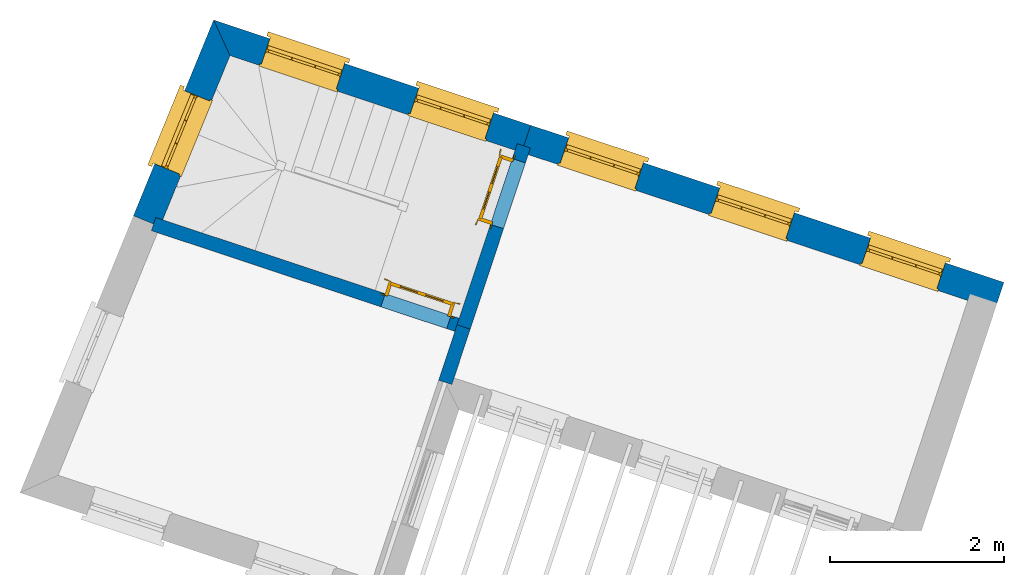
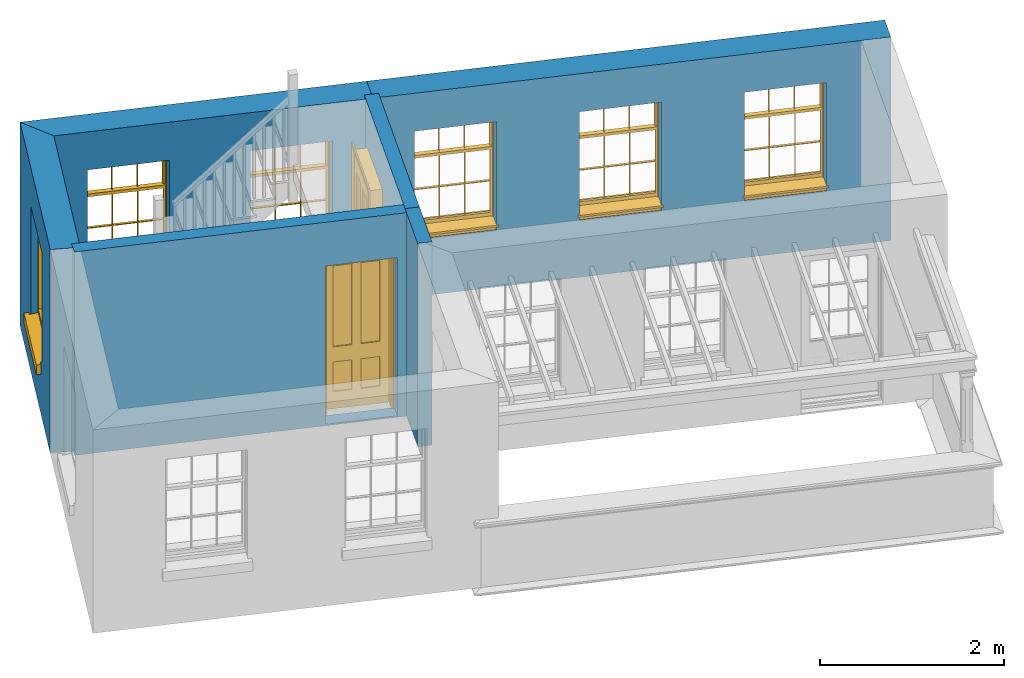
# One storey, part 4 of 6: 6 walls, 6 windows, 2 doors, 8 openings.
"""IFC4 building model written with IfcOpenShell, lengths in metres."""

from ifc_helpers import new_model, si_unit, frame, origin, origin_with_axes, place, context, subcontext, project, spatial, polyline, outline, extrude, faceted_brep, source, transform, mapped, material, layer, layer_set, layer_usage, type_object, type_shapes, element, fill, save


model = new_model("IFC4")

# Units and contexts
model_context = context("Model", 3, world=origin_with_axes())
body_context = subcontext(model_context, "Body", "Model", "MODEL_VIEW")
ifc_project = project(units=[si_unit("PLANEANGLEUNIT", "RADIAN"), si_unit("MASSUNIT", "GRAM", prefix="KILO"), si_unit("FORCEUNIT", "NEWTON", prefix="KILO"), si_unit("LENGTHUNIT", "METRE"), si_unit("AREAUNIT", "SQUARE_METRE"), si_unit("VOLUMEUNIT", "CUBIC_METRE")], contexts=[model_context, model_context])

# Sites, building, storey
site_1_placement = place(None, origin_with_axes())
site_1 = spatial("IfcSite", under=ifc_project, at=site_1_placement, Name="Tamar")
site_2_placement = place(site_1_placement, origin_with_axes())
site_2 = spatial("IfcSite", under=site_1, at=site_2_placement, Name="Site plot-16", CompositionType="ELEMENT")
building_placement = place(None, origin_with_axes())
building = spatial("IfcBuilding", under=site_2, at=building_placement, Name="Building plot-16", CompositionType="ELEMENT")
storey_placement = place(None, frame((0.0, 0.0, 29.45), z_axis=(0.0, 0.0, 1.0), x_axis=(1.0, 0.0, 0.0)))
storey = spatial("IfcBuildingStorey", under=building, at=storey_placement, Name="plot-16 1", CompositionType="ELEMENT", Elevation=29.45)

# Wall, openings, windows
ifc_material_1 = material(Name="Masonry")
ifc_layer_1 = layer(ifc_material_1, 0.33, ventilated=False)
ifc_layer_set_1 = layer_set([ifc_layer_1], Name="exterior_0.08_0.25")
ifc_layer_usage_1 = layer_usage(ifc_layer_set_1, "AXIS2", "POSITIVE", -0.25)
wall_type_1 = type_object("IfcWallType", Name="exterior_0.08_0.25", PredefinedType="SOLIDWALL", material=ifc_layer_set_1)
wall_1_placement = place(storey_placement, frame((263.230074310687, 296.823615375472, 0.0), z_axis=(0.0, 0.0, 1.0), x_axis=(-0.949078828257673, 0.315038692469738, 0.0)))
wall_1 = element("IfcWall", 1, at=wall_1_placement, inside=storey, type_object=wall_type_1, material=ifc_layer_usage_1, Name="exterior", context=body_context, shape_type="SweptSolid", body=[
    extrude(outline(polyline([(-0.249999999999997, 0.0799999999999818), (-0.249999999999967, -0.249999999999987), (5.49899441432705, -0.249999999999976), (5.49899441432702, 0.0799999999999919), (-0.249999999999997, 0.0799999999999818)])), origin_with_axes(), (0.0, 0.0, 1.0), 2.7),
])
opening_1_placement = place(wall_1_placement, frame((0.461499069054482, 0.0, 0.75)))
opening_1 = element("IfcOpeningElement", 2, at=opening_1_placement, cuts=wall_1, Name="My Opening", ObjectType="Opening", context=body_context, shape_type="SweptSolid", body=[
    extrude(outline(polyline([(0.0, -0.270000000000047), (0.909999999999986, -0.270000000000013), (0.910000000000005, 1.10000000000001), (1.9151347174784e-14, 1.09999999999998), (0.0, -0.270000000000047)])), origin_with_axes(), (0.0, 0.0, 1.0), 1.445),
])
opening_2_placement = place(wall_1_placement, frame((2.2944972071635, 0.0, 0.75)))
opening_2 = element("IfcOpeningElement", 3, at=opening_2_placement, cuts=wall_1, Name="My Opening", ObjectType="Opening", context=body_context, shape_type="SweptSolid", body=[
    extrude(outline(polyline([(0.0, -0.270000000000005), (0.910000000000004, -0.270000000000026), (0.910000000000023, 1.1), (1.95399252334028e-14, 1.10000000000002), (0.0, -0.270000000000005)])), origin_with_axes(), (0.0, 0.0, 1.0), 1.445),
])
opening_3_placement = place(wall_1_placement, frame((4.12749534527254, 0.0, 0.75)))
opening_3 = element("IfcOpeningElement", 4, at=opening_3_placement, cuts=wall_1, Name="My Opening", ObjectType="Opening", context=body_context, shape_type="SweptSolid", body=[
    extrude(outline(polyline([(0.0, -0.270000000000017), (0.909999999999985, -0.269999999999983), (0.910000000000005, 1.10000000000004), (1.86517468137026e-14, 1.10000000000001), (0.0, -0.270000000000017)])), origin_with_axes(), (0.0, 0.0, 1.0), 1.445),
])
window_type = type_object("IfcWindowType", Name="sash_shorter", PartitioningType="DOUBLE_PANEL_HORIZONTAL", PredefinedType="NOTDEFINED")
shared_shape_1 = source(origin(), body_context, "Body", "Brep", [
    faceted_brep([(0.876875, 0.145, 0.999097), (0.876875, 0.145, 1.411875), (0.9, 0.145, 1.435), (0.033125, 0.145, 1.411875), (0.033125, 0.145, 0.999097), (0.01, 0.145, 1.435), (0.033125, 0.115, 1.411875), (0.01, 0.115, 1.435), (0.033125, 0.115, 0.999097), (0.876875, 0.115, 1.411875), (0.876875, 0.115, 0.999097), (0.9, 0.115, 1.435), (0.033125, 0.145, 0.960972), (0.01, 0.145, 0.960972), (0.033125, 0.145, 0.548195), (0.876875, 0.145, 0.960972), (0.876875, 0.145, 0.548195), (0.9, 0.145, 0.960972), (0.876875, 0.145, 0.538195), (0.876875, 0.145, 0.125417), (0.9, 0.145, 0.077167), (0.033125, 0.145, 0.125417), (0.033125, 0.145, 0.538195), (0.01, 0.145, 0.077167), (0.9, 0.115, 0.960972), (0.01, 0.115, 0.960972), (-0.0425, 0.0, 0.01), (-0.0425, -0.05, 0.001667), (0.0, 0.0, 0.01), (0.9525, 0.0, 0.01), (0.91, 0.0, 0.01), (0.9525, -0.05, 0.001667), (-0.02, 0.33, 0.077167), (0.0, 0.33, 0.077167), (-0.02, 0.36, 0.077167), (0.0, 0.19, 0.077167), (0.01, 0.19, 0.077167), (0.91, 0.19, 0.077167), (0.91, 0.33, 0.077167), (0.9, 0.19, 0.077167), (0.93, 0.33, 0.077167), (0.93, 0.36, 0.077167), (0.01, 0.145, 0.999097), (0.01, 0.175, 0.999097), (0.9, 0.145, 0.999097), (0.9, 0.175, 0.999097), (0.876875, 0.175, 0.125417), (0.876875, 0.175, 0.538195), (0.9, 0.175, 0.077167), (0.876875, 0.175, 0.548195), (0.876875, 0.175, 0.960972), (0.033125, 0.175, 0.125417), (0.01, 0.175, 0.077167), (0.033125, 0.175, 0.538195), (0.033125, 0.175, 0.960972), (0.033125, 0.175, 0.548195), (-0.02, 0.33, 0.052167), (-0.02, 0.36, 0.052167), (0.93, 0.36, 0.052167), (0.93, 0.33, 0.052167), (0.91, 0.33, 0.052167), (0.0, 0.33, 0.052167), (0.91, 0.1, 0.026667), (0.0, 0.1, 0.026667), (-0.0425, -0.05, -0.123333), (0.9525, -0.05, -0.123333), (-0.0425, 0.0, -0.123333), (0.9525, 0.0, -0.123333), (0.01, 0.19, 1.435), (0.9, 0.19, 1.435), (0.0, 0.19, 1.445), (0.91, 0.19, 1.445), (0.01, 0.1, 0.077167), (0.9, 0.1, 0.077167), (0.592292, 0.145, 0.125417), (0.592292, 0.175, 0.125417), (0.317708, 0.175, 0.125417), (0.317708, 0.145, 0.125417), (0.592292, 0.145, 0.548195), (0.317708, 0.145, 0.548195), (0.317708, 0.145, 0.538195), (0.592292, 0.145, 0.538195), (0.592292, 0.175, 0.548195), (0.317708, 0.175, 0.548195), (0.602292, 0.175, 0.548195), (0.602292, 0.145, 0.548195), (0.317708, 0.175, 0.538195), (0.307708, 0.175, 0.125417), (0.307708, 0.175, 0.538195), (0.602292, 0.175, 0.538195), (0.602292, 0.175, 0.125417), (0.592292, 0.175, 0.538195), (0.307708, 0.175, 0.548195), (0.317708, 0.175, 0.960972), (0.307708, 0.175, 0.960972), (0.602292, 0.175, 0.960972), (0.592292, 0.175, 0.960972), (0.307708, 0.145, 0.538195), (0.307708, 0.145, 0.125417), (0.307708, 0.145, 0.548195), (0.307708, 0.145, 0.960972), (0.592292, 0.145, 0.960972), (0.317708, 0.145, 0.960972), (0.602292, 0.145, 0.960972), (0.602292, 0.145, 0.538195), (0.602292, 0.145, 0.125417), (0.317708, 0.115, 1.411875), (0.307708, 0.115, 1.411875), (0.307708, 0.115, 0.999097), (0.317708, 0.115, 0.999097), (0.602292, 0.115, 1.411875), (0.592292, 0.115, 1.411875), (0.592292, 0.115, 0.999097), (0.602292, 0.115, 0.999097), (0.317708, 0.145, 0.999097), (0.307708, 0.145, 0.999097), (0.307708, 0.145, 1.411875), (0.317708, 0.145, 1.411875), (0.602292, 0.145, 0.999097), (0.592292, 0.145, 0.999097), (0.592292, 0.145, 1.411875), (0.602292, 0.145, 1.411875), (0.91, 0.1, 1.445), (0.9, 0.1, 1.435), (0.01, 0.1, 1.435), (0.0, 0.1, 1.445), (0.91, 0.0, 0.0), (0.0, 0.0, 0.0), (0.91, 0.33, 0.0), (0.0, 0.33, 0.0)], [[[0, 1, 2]], [[3, 4, 5]], [[6, 7, 8]], [[9, 10, 11]], [[12, 13, 14]], [[15, 16, 17]], [[18, 19, 20]], [[21, 22, 23]], [[24, 15, 17]], [[13, 12, 25]], [[26, 27, 28]], [[29, 30, 31]], [[32, 33, 34]], [[35, 36, 33]], [[37, 38, 39]], [[40, 41, 38]], [[42, 4, 43]], [[44, 45, 0]], [[46, 47, 48]], [[49, 50, 45]], [[51, 52, 53]], [[54, 55, 43]], [[38, 33, 36, 39]], [[41, 34, 33, 38]], [[56, 32, 34, 57]], [[57, 34, 41, 58]], [[58, 41, 40, 59]], [[57, 58, 60, 61]], [[52, 48, 39, 36]], [[62, 63, 28, 30]], [[27, 31, 30, 28]], [[27, 64, 65, 31]], [[66, 67, 65, 64]], [[2, 5, 68, 69]], [[68, 70, 71, 69]], [[20, 23, 72, 73]], [[73, 72, 63, 62]], [[74, 75, 76, 77]], [[78, 79, 80, 81]], [[78, 82, 83, 79]], [[16, 49, 84, 85]], [[86, 76, 87, 88]], [[89, 90, 75, 91]], [[92, 88, 53, 55]], [[82, 91, 86, 83]], [[93, 83, 92, 94]], [[95, 84, 82, 96]], [[89, 84, 49, 47]], [[97, 88, 87, 98]], [[22, 53, 88, 97]], [[81, 91, 75, 74]], [[80, 86, 91, 81]], [[77, 76, 86, 80]], [[99, 92, 55, 14]], [[100, 94, 92, 99]], [[101, 96, 82, 78]], [[79, 83, 93, 102]], [[85, 84, 95, 103]], [[104, 89, 47, 18]], [[105, 90, 89, 104]], [[104, 18, 16, 85]], [[80, 97, 98, 77]], [[104, 81, 74, 105]], [[103, 101, 78, 85]], [[99, 14, 22, 97]], [[102, 100, 99, 79]], [[106, 107, 108, 109]], [[110, 111, 112, 113]], [[114, 115, 116, 117]], [[118, 119, 120, 121]], [[107, 116, 115, 108]], [[111, 120, 119, 112]], [[109, 114, 117, 106]], [[113, 118, 121, 110]], [[85, 78, 81, 104]], [[84, 89, 91, 82]], [[83, 86, 88, 92]], [[79, 99, 97, 80]], [[109, 112, 119, 114]], [[102, 93, 96, 101]], [[106, 117, 120, 111]], [[98, 87, 51, 21]], [[6, 3, 116, 107]], [[110, 121, 1, 9]], [[19, 46, 90, 105]], [[26, 66, 64, 27]], [[29, 31, 65, 67]], [[25, 24, 112, 109]], [[11, 7, 106, 111]], [[75, 48, 52, 76]], [[43, 45, 96, 93]], [[45, 43, 114, 119]], [[5, 2, 120, 117]], [[24, 25, 102, 101]], [[42, 5, 4]], [[2, 44, 0]], [[49, 45, 48, 47]], [[52, 43, 55, 53]], [[14, 13, 23, 22]], [[20, 17, 16, 18]], [[24, 11, 10]], [[25, 8, 7]], [[8, 4, 3, 6]], [[9, 1, 0, 10]], [[15, 50, 49, 16]], [[18, 47, 46, 19]], [[21, 51, 53, 22]], [[14, 55, 54, 12]], [[44, 2, 69, 45]], [[68, 5, 42, 43]], [[36, 35, 70, 68]], [[39, 69, 71, 37]], [[62, 122, 123, 73]], [[63, 72, 124, 125]], [[8, 108, 115, 4]], [[113, 10, 0, 118]], [[94, 100, 12, 54]], [[17, 20, 73, 24]], [[72, 23, 13, 25]], [[52, 36, 68, 43]], [[69, 39, 48, 45]], [[11, 24, 73, 123]], [[7, 124, 72, 25]], [[23, 77, 98]], [[98, 21, 23]], [[105, 74, 20]], [[20, 19, 105]], [[20, 74, 77, 23]], [[113, 112, 24]], [[24, 10, 113]], [[25, 109, 108]], [[108, 8, 25]], [[110, 9, 11]], [[11, 111, 110]], [[7, 6, 107]], [[107, 106, 7]], [[5, 117, 116]], [[116, 3, 5]], [[121, 120, 2]], [[2, 1, 121]], [[11, 123, 124, 7]], [[122, 125, 124, 123]], [[43, 93, 94]], [[94, 54, 43]], [[96, 45, 95]], [[50, 95, 45]], [[15, 103, 95, 50]], [[48, 75, 90]], [[90, 46, 48]], [[87, 76, 52]], [[52, 51, 87]], [[103, 15, 24]], [[24, 101, 103]], [[100, 102, 25]], [[25, 12, 100]], [[115, 114, 43]], [[43, 4, 115]], [[118, 0, 45]], [[45, 119, 118]], [[71, 70, 125, 122]], [[70, 35, 63, 125]], [[122, 62, 37, 71]], [[126, 67, 66, 127]], [[60, 58, 59]], [[38, 60, 59, 40]], [[61, 56, 57]], [[32, 56, 61, 33]], [[61, 60, 128, 129]], [[62, 60, 38, 37]], [[126, 128, 60, 62]], [[33, 61, 63, 35]], [[61, 129, 127, 63]], [[128, 126, 127, 129]], [[28, 127, 66, 26]], [[63, 127, 28]], [[29, 67, 126, 30]], [[30, 126, 62]]]),
])
type_shapes(window_type, [shared_shape_1])
window_1_placement = place(storey_placement, frame((262.877135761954, 297.225256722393, 0.75), z_axis=(0.0, 0.0, 1.0), x_axis=(-0.86366173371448, 0.286685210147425, 0.0)))
window_1 = element("IfcWindow", 5, at=window_1_placement, inside=storey, type_object=window_type, Name="bedroom outside window", OverallHeight=1.445, OverallWidth=0.91, context=body_context, shape_type="MappedRepresentation", body=[
    mapped(shared_shape_1, transform((0.0, 0.0, 0.0), scale=1.0)),
])
fill(opening_1, window_1)
window_2_placement = place(storey_placement, frame((261.137476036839, 297.802722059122, 0.75), z_axis=(0.0, 0.0, 1.0), x_axis=(-0.86366173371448, 0.286685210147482, 0.0)))
window_2 = element("IfcWindow", 6, at=window_2_placement, inside=storey, type_object=window_type, Name="bedroom outside window", OverallHeight=1.445, OverallWidth=0.91, context=body_context, shape_type="MappedRepresentation", body=[
    mapped(shared_shape_1, transform((0.0, 0.0, 0.0), scale=1.0)),
])
fill(opening_2, window_2)
window_3_placement = place(storey_placement, frame((259.397816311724, 298.380187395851, 0.75), z_axis=(0.0, 0.0, 1.0), x_axis=(-0.86366173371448, 0.286685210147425, 0.0)))
window_3 = element("IfcWindow", 7, at=window_3_placement, inside=storey, type_object=window_type, Name="bedroom outside window", OverallHeight=1.445, OverallWidth=0.91, context=body_context, shape_type="MappedRepresentation", body=[
    mapped(shared_shape_1, transform((0.0, 0.0, 0.0), scale=1.0)),
])
fill(opening_3, window_3)

wall_2_placement = place(storey_placement, frame((258.011095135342, 298.55601138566, 0.0), z_axis=(0.0, 0.0, 1.0), x_axis=(-0.949078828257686, 0.3150386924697, 0.0)))
wall_2 = element("IfcWall", 8, at=wall_2_placement, inside=storey, type_object=wall_type_1, material=ifc_layer_usage_1, Name="exterior", context=body_context, shape_type="SweptSolid", body=[
    extrude(outline(polyline([(-1.66218014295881e-14, 0.0799999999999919), (1.81841538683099e-16, -0.249999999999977), (3.84975148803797, -0.249999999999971), (3.54152088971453, 0.079999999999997), (-1.66218014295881e-14, 0.0799999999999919)])), origin_with_axes(), (0.0, 0.0, 1.0), 2.7),
])
opening_4_placement = place(wall_2_placement, frame((0.449060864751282, 0.0, 0.75)))
opening_4 = element("IfcOpeningElement", 9, at=opening_4_placement, cuts=wall_2, Name="My Opening", ObjectType="Opening", context=body_context, shape_type="SweptSolid", body=[
    extrude(outline(polyline([(0.0, -0.270000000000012), (0.909999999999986, -0.270000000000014), (0.909999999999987, 1.10000000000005), (1.83186799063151e-15, 1.10000000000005), (0.0, -0.270000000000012)])), origin_with_axes(), (0.0, 0.0, 1.0), 1.445),
])
opening_5_placement = place(wall_2_placement, frame((2.25718259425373, 0.0, 0.75)))
opening_5 = element("IfcOpeningElement", 10, at=opening_5_placement, cuts=wall_2, Name="My Opening", ObjectType="Opening", context=body_context, shape_type="SweptSolid", body=[
    extrude(outline(polyline([(0.0, -0.269999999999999), (0.910000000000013, -0.269999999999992), (0.909999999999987, 1.10000000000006), (-2.53130849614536e-14, 1.10000000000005), (0.0, -0.269999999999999)])), origin_with_axes(), (0.0, 0.0, 1.0), 1.445),
])
window_4_placement = place(storey_placement, frame((257.669961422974, 298.95373421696, 0.75), z_axis=(0.0, 0.0, 1.0), x_axis=(-0.86366173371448, 0.286685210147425, 0.0)))
window_4 = element("IfcWindow", 11, at=window_4_placement, inside=storey, type_object=window_type, Name="circulation outside window", OverallHeight=1.445, OverallWidth=0.91, context=body_context, shape_type="MappedRepresentation", body=[
    mapped(shared_shape_1, transform((0.0, 0.0, 0.0), scale=1.0)),
])
fill(opening_4, window_4)
window_5_placement = place(storey_placement, frame((255.953911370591, 299.523362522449, 0.75), z_axis=(0.0, 0.0, 1.0), x_axis=(-0.863661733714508, 0.286685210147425, 0.0)))
window_5 = element("IfcWindow", 12, at=window_5_placement, inside=storey, type_object=window_type, Name="circulation outside window", OverallHeight=1.445, OverallWidth=0.91, context=body_context, shape_type="MappedRepresentation", body=[
    mapped(shared_shape_1, transform((0.0, 0.0, 0.0), scale=1.0)),
])
fill(opening_5, window_5)

# Wall, opening, window
wall_3_placement = place(storey_placement, frame((254.578995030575, 299.695267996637, 0.0), z_axis=(0.0, 0.0, 1.0), x_axis=(-0.378975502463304, -0.925406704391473, 0.0)))
wall_3 = element("IfcWall", 13, at=wall_3_placement, inside=storey, type_object=wall_type_1, material=ifc_layer_usage_1, Name="exterior", context=body_context, shape_type="SweptSolid", body=[
    extrude(outline(polyline([(0.0747225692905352, 0.0799999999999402), (-0.233508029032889, -0.250000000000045), (2.20575970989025, -0.25), (2.20575970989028, 0.0800000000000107), (0.0747225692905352, 0.0799999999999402)])), origin_with_axes(), (0.0, 0.0, 1.0), 2.7),
])
opening_6_placement = place(wall_3_placement, frame((0.647879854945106, 0.0, 0.75)))
opening_6 = element("IfcOpeningElement", 14, at=opening_6_placement, cuts=wall_3, Name="My Opening", ObjectType="Opening", context=body_context, shape_type="SweptSolid", body=[
    extrude(outline(polyline([(0.0, -0.270000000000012), (0.91000000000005, -0.27000000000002), (0.910000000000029, 1.09999999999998), (-2.1538326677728e-14, 1.09999999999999), (0.0, -0.270000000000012)])), origin_with_axes(), (0.0, 0.0, 1.0), 1.445),
])
window_6_placement = place(storey_placement, frame((254.083604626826, 299.198039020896, 0.75), z_axis=(0.0, 0.0, 1.0), x_axis=(-0.344867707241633, -0.842120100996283, 0.0)))
window_6 = element("IfcWindow", 15, at=window_6_placement, inside=storey, type_object=window_type, Name="circulation outside window", OverallHeight=1.445, OverallWidth=0.91, context=body_context, shape_type="MappedRepresentation", body=[
    mapped(shared_shape_1, transform((0.0, 0.0, 0.0), scale=1.0)),
])
fill(opening_6, window_6)

# Wall, opening, door
ifc_material_2 = material(Name="Masonry")
ifc_layer_2 = layer(ifc_material_2, 0.16, ventilated=False)
ifc_layer_set_2 = layer_set([ifc_layer_2], Name="interior_0.08_0.08")
ifc_layer_usage_2 = layer_usage(ifc_layer_set_2, "AXIS2", "POSITIVE", -0.08)
wall_type_2 = type_object("IfcWallType", Name="interior_0.08_0.08", PredefinedType="SOLIDWALL", material=ifc_layer_set_2)
wall_4_placement = place(storey_placement, frame((253.743066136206, 297.654043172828, 0.0), z_axis=(0.0, 0.0, 1.0), x_axis=(0.949078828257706, -0.31503869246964, 0.0)))
wall_4 = element("IfcWall", 16, at=wall_4_placement, inside=storey, type_object=wall_type_2, material=ifc_layer_usage_2, Name="interior", context=body_context, shape_type="SweptSolid", body=[
    extrude(outline(polyline([(-1.15414208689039e-14, 0.0799999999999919), (1.15671508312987e-14, -0.0799999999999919), (3.76654107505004, -0.079999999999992), (3.76654107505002, 0.0799999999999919), (-1.15414208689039e-14, 0.0799999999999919)])), origin_with_axes(), (0.0, 0.0, 1.0), 2.7),
])
opening_7_placement = place(wall_4_placement, frame((2.78654107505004, 0.0, 0.0199999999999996)))
opening_7 = element("IfcOpeningElement", 17, at=opening_7_placement, cuts=wall_4, Name="My Opening", ObjectType="Opening", context=body_context, shape_type="SweptSolid", body=[
    extrude(outline(polyline([(0.0, -0.100000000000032), (0.799999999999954, -0.100000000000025), (0.799999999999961, 1.10000000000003), (7.105427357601e-15, 1.10000000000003), (0.0, -0.100000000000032)])), origin_with_axes(), (0.0, 0.0, 1.0), 2.1),
])
door_type = type_object("IfcDoorType", Name="door_inside", OperationType="SINGLE_SWING_LEFT", PredefinedType="NOTDEFINED")
shared_shape_2 = source(origin(), body_context, "Body", "Brep", [
    faceted_brep([(0.773, 0.33, 1.895), (0.66, 0.33, 1.895), (0.66, 0.33, 2.073), (0.773, 0.33, 2.073), (0.773, 0.33, 0.82), (0.66, 0.33, 0.82), (0.45, 0.33, 1.895), (0.45, 0.33, 2.073), (0.773, 0.33, 0.62), (0.66, 0.33, 0.62), (0.66, 0.315, 0.82), (0.66, 0.315, 1.895), (0.45, 0.315, 1.895), (0.35, 0.33, 1.895), (0.35, 0.33, 2.073), (0.773, 0.33, 0.225), (0.66, 0.33, 0.225), (0.45, 0.33, 0.62), (0.45, 0.33, 0.82), (0.45, 0.315, 0.82), (0.35, 0.33, 0.82), (0.14, 0.33, 2.073), (0.14, 0.33, 1.895), (0.773, 0.33, 0.0), (0.66, 0.33, 0.0), (0.66, 0.315, 0.225), (0.66, 0.315, 0.62), (0.45, 0.315, 0.62), (0.35, 0.33, 0.62), (0.35, 0.315, 0.82), (0.35, 0.315, 1.895), (0.14, 0.315, 1.895), (0.027, 0.33, 2.073), (0.027, 0.33, 1.895), (0.773, 0.292, 0.0), (0.66, 0.292, 0.0), (0.45, 0.33, 0.0), (0.45, 0.33, 0.225), (0.45, 0.315, 0.225), (0.35, 0.33, 0.225), (0.14, 0.33, 0.82), (0.14, 0.33, 0.62), (0.14, 0.315, 0.82), (0.027, 0.33, 0.82), (0.773, 0.292, 0.225), (0.66, 0.292, 0.225), (0.45, 0.292, 0.0), (0.35, 0.33, 0.0), (0.35, 0.315, 0.225), (0.35, 0.315, 0.62), (0.14, 0.315, 0.62), (0.027, 0.33, 0.62), (0.773, 0.292, 0.62), (0.66, 0.292, 0.62), (0.45, 0.292, 0.225), (0.35, 0.292, 0.0), (0.14, 0.33, 0.225), (0.14, 0.33, 0.0), (0.14, 0.315, 0.225), (0.027, 0.33, 0.225), (0.773, 0.292, 0.82), (0.66, 0.292, 0.82), (0.66, 0.307, 0.62), (0.66, 0.307, 0.225), (0.45, 0.307, 0.225), (0.35, 0.292, 0.225), (0.14, 0.292, 0.0), (0.027, 0.33, 0.0), (0.773, 0.292, 1.895), (0.66, 0.292, 1.895), (0.45, 0.292, 0.62), (0.45, 0.292, 0.82), (0.45, 0.307, 0.62), (0.35, 0.292, 0.62), (0.14, 0.292, 0.225), (0.027, 0.292, 0.0), (0.773, 0.292, 2.073), (0.66, 0.292, 2.073), (0.66, 0.307, 1.895), (0.66, 0.307, 0.82), (0.45, 0.307, 0.82), (0.35, 0.292, 0.82), (0.35, 0.307, 0.62), (0.35, 0.307, 0.225), (0.14, 0.307, 0.225), (0.027, 0.292, 0.225), (0.45, 0.292, 1.895), (0.45, 0.292, 2.073), (0.45, 0.307, 1.895), (0.35, 0.292, 1.895), (0.14, 0.292, 0.82), (0.14, 0.292, 0.62), (0.14, 0.307, 0.62), (0.027, 0.292, 0.62), (0.35, 0.292, 2.073), (0.35, 0.307, 1.895), (0.35, 0.307, 0.82), (0.14, 0.307, 0.82), (0.027, 0.292, 0.82), (0.14, 0.292, 2.073), (0.14, 0.292, 1.895), (0.14, 0.307, 1.895), (0.027, 0.292, 1.895), (0.027, 0.292, 2.073), (0.02, 0.335, 0.0), (0.005, 0.34, 0.0), (0.005, 0.34, 2.095), (0.02, 0.335, 2.08), (0.02, 0.33, 0.0), (0.0, 0.335, 0.0), (0.0, 0.335, 2.1), (0.795, 0.34, 2.095), (0.78, 0.335, 2.08), (0.02, 0.33, 2.08), (0.0, 0.33, 0.0), (-0.032, 0.345, 0.0), (-0.032, 0.345, 2.132), (0.8, 0.335, 2.1), (0.795, 0.34, 0.0), (0.78, 0.335, 0.0), (0.78, 0.33, 2.08), (0.04, 0.29, 0.0), (0.025, 0.29, 0.0), (0.025, 0.29, 2.075), (0.04, 0.29, 2.06), (-0.04, 0.34, 0.0), (-0.04, 0.34, 2.14), (0.832, 0.345, 2.132), (0.8, 0.335, 0.0), (0.78, 0.33, 0.0), (0.8, 0.33, 0.0), (0.86, 0.33, 0.0), (0.86, 0.33, 2.16), (0.8, 0.33, 2.1), (-0.06, 0.33, 2.16), (0.0, 0.33, 2.1), (-0.06, 0.33, 0.0), (-0.04, 0.345, 0.0), (-0.04, 0.345, 2.14), (0.84, 0.34, 2.14), (0.832, 0.345, 0.0), (0.84, 0.34, 0.0), (0.86, 0.345, 0.0), (0.86, 0.345, 2.16), (-0.06, 0.345, 2.16), (-0.06, 0.345, 0.0), (0.84, 0.345, 0.0), (0.84, 0.345, 2.14), (-0.025, 0.155, 0.0), (-0.025, 0.16, 0.0), (-0.025, 0.16, 2.125), (-0.025, 0.155, 2.125), (-0.017, 0.155, 0.0), (-0.017, 0.155, 2.117), (0.825, 0.16, 2.125), (0.825, 0.155, 2.125), (0.825, 0.155, 0.0), (0.845, 0.155, 0.0), (-0.045, 0.155, 2.145), (-0.045, 0.155, 0.0), (0.845, 0.155, 2.145), (0.015, 0.165, 0.0), (0.015, 0.165, 2.085), (0.817, 0.155, 2.117), (0.825, 0.16, 0.0), (0.845, 0.17, 0.0), (0.845, 0.17, 2.145), (-0.045, 0.17, 2.145), (-0.045, 0.17, 0.0), (0.02, 0.16, 0.0), (0.02, 0.16, 2.08), (0.785, 0.165, 2.085), (0.817, 0.155, 0.0), (0.8, 0.17, 0.0), (0.8, 0.17, 2.1), (0.0, 0.17, 2.1), (0.0, 0.17, 0.0), (0.035, 0.165, 0.0), (0.035, 0.165, 2.065), (0.78, 0.16, 2.08), (0.785, 0.165, 0.0), (0.775, 0.29, 2.075), (0.76, 0.29, 2.06), (0.035, 0.17, 2.065), (0.035, 0.17, 0.0), (0.765, 0.165, 2.065), (0.78, 0.16, 0.0), (0.765, 0.17, 0.0), (0.765, 0.17, 2.065), (0.765, 0.165, 0.0), (0.04, 0.17, 2.06), (0.04, 0.17, 0.0), (0.76, 0.17, 2.06), (0.76, 0.17, 0.0), (0.76, 0.29, 0.0), (0.775, 0.29, 0.0), (0.025, 0.33, 0.0), (0.025, 0.33, 2.075), (0.775, 0.33, 0.0), (0.775, 0.33, 2.075)], [[[0, 1, 2, 3]], [[1, 0, 4, 5]], [[1, 6, 7, 2]], [[8, 9, 5, 4]], [[1, 5, 10, 11]], [[6, 1, 11, 12]], [[6, 13, 14, 7]], [[15, 16, 9, 8]], [[9, 17, 18, 5]], [[5, 18, 19, 10]], [[10, 19, 12, 11]], [[18, 6, 12, 19]], [[18, 20, 13, 6]], [[21, 14, 13, 22]], [[23, 24, 16, 15]], [[9, 16, 25, 26]], [[17, 9, 26, 27]], [[17, 28, 20, 18]], [[13, 20, 29, 30]], [[22, 13, 30, 31]], [[32, 21, 22, 33]], [[34, 35, 24, 23]], [[24, 36, 37, 16]], [[16, 37, 38, 25]], [[25, 38, 27, 26]], [[37, 17, 27, 38]], [[37, 39, 28, 17]], [[40, 20, 28, 41]], [[20, 40, 42, 29]], [[31, 30, 29, 42]], [[40, 22, 31, 42]], [[33, 22, 40, 43]], [[35, 34, 44, 45]], [[35, 46, 36, 24]], [[36, 47, 39, 37]], [[28, 39, 48, 49]], [[41, 28, 49, 50]], [[43, 40, 41, 51]], [[45, 44, 52, 53]], [[46, 35, 45, 54]], [[46, 55, 47, 36]], [[56, 39, 47, 57]], [[39, 56, 58, 48]], [[50, 49, 48, 58]], [[56, 41, 50, 58]], [[51, 41, 56, 59]], [[53, 52, 60, 61]], [[45, 53, 62, 63]], [[54, 45, 63, 64]], [[55, 46, 54, 65]], [[55, 66, 57, 47]], [[59, 56, 57, 67]], [[61, 60, 68, 69]], [[70, 53, 61, 71]], [[53, 70, 72, 62]], [[72, 64, 63, 62]], [[70, 54, 64, 72]], [[65, 54, 70, 73]], [[65, 74, 66, 55]], [[67, 57, 66, 75]], [[69, 68, 76, 77]], [[61, 69, 78, 79]], [[71, 61, 79, 80]], [[73, 70, 71, 81]], [[65, 73, 82, 83]], [[74, 65, 83, 84]], [[74, 85, 75, 66]], [[86, 69, 77, 87]], [[69, 86, 88, 78]], [[88, 80, 79, 78]], [[86, 71, 80, 88]], [[81, 71, 86, 89]], [[73, 81, 90, 91]], [[73, 91, 92, 82]], [[83, 82, 92, 84]], [[91, 74, 84, 92]], [[91, 93, 85, 74]], [[89, 86, 87, 94]], [[81, 89, 95, 96]], [[90, 81, 96, 97]], [[90, 98, 93, 91]], [[94, 99, 100, 89]], [[89, 100, 101, 95]], [[101, 97, 96, 95]], [[100, 90, 97, 101]], [[100, 102, 98, 90]], [[99, 103, 102, 100]], [[32, 103, 99, 21]], [[102, 103, 32, 33]], [[98, 102, 33, 43]], [[21, 99, 94, 14]], [[94, 87, 7, 14]], [[7, 87, 77, 2]], [[76, 3, 2, 77]], [[43, 51, 93, 98]], [[51, 59, 85, 93]], [[67, 75, 85, 59]], [[34, 23, 15, 44]], [[44, 15, 8, 52]], [[52, 8, 4, 60]], [[0, 68, 60, 4]], [[0, 3, 76, 68]], [[104, 105, 106, 107]], [[104, 108, 109, 105]], [[105, 109, 110, 106]], [[107, 106, 111, 112]], [[107, 113, 108, 104]], [[114, 109, 108]], [[109, 115, 116, 110]], [[106, 110, 117, 111]], [[112, 111, 118, 119]], [[113, 107, 112, 120]], [[121, 122, 123, 124]], [[115, 109, 114, 125]], [[115, 125, 126, 116]], [[110, 116, 127, 117]], [[111, 117, 128, 118]], [[118, 128, 129, 119]], [[120, 112, 119, 129]], [[130, 129, 128]], [[130, 131, 132, 133]], [[133, 132, 134, 135]], [[135, 134, 136, 114]], [[136, 125, 114]], [[125, 137, 138, 126]], [[116, 126, 139, 127]], [[117, 127, 140, 128]], [[141, 130, 128, 140]], [[131, 130, 141]], [[131, 142, 143, 132]], [[132, 143, 144, 134]], [[134, 144, 145, 136]], [[137, 125, 136, 145]], [[143, 142, 146]], [[143, 146, 147]], [[137, 145, 144]], [[143, 147, 138]], [[138, 137, 144]], [[143, 138, 144]], [[126, 138, 147, 139]], [[127, 139, 141, 140]], [[142, 131, 141, 146]], [[139, 147, 146, 141]], [[148, 149, 150, 151]], [[149, 152, 153, 150]], [[151, 150, 154, 155]], [[155, 156, 157]], [[158, 159, 148]], [[158, 148, 151]], [[155, 157, 160]], [[158, 151, 155]], [[155, 160, 158]], [[152, 161, 162, 153]], [[150, 153, 163, 154]], [[155, 154, 164, 156]], [[156, 164, 165, 157]], [[157, 165, 166, 160]], [[160, 166, 167, 158]], [[158, 167, 168, 159]], [[161, 169, 170, 162]], [[153, 162, 171, 163]], [[154, 163, 172, 164]], [[165, 164, 173]], [[165, 173, 174, 166]], [[166, 174, 175, 167]], [[167, 175, 176, 168]], [[169, 177, 178, 170]], [[162, 170, 179, 171]], [[163, 171, 180, 172]], [[172, 180, 173, 164]], [[124, 123, 181, 182]], [[183, 178, 177, 184]], [[170, 178, 185, 179]], [[171, 179, 186, 180]], [[187, 173, 180]], [[185, 188, 187, 189]], [[188, 185, 178, 183]], [[179, 185, 189, 186]], [[189, 187, 180, 186]], [[190, 183, 184, 191]], [[192, 188, 183, 190]], [[191, 184, 122, 121]], [[124, 190, 191, 121]], [[193, 187, 188, 192]], [[182, 192, 190, 124]], [[184, 176, 122]], [[194, 195, 187, 193]], [[192, 182, 194, 193]], [[161, 176, 184]], [[114, 108, 122, 176]], [[173, 187, 195]], [[152, 149, 176, 161]], [[169, 161, 184, 177]], [[196, 122, 108]], [[176, 175, 135, 114]], [[173, 195, 129, 130]], [[176, 149, 168]], [[123, 122, 196, 197]], [[196, 108, 113, 197]], [[175, 174, 133, 135]], [[198, 129, 195]], [[133, 174, 173, 130]], [[159, 168, 149, 148]], [[181, 123, 197, 199]], [[197, 113, 120, 199]], [[199, 120, 129, 198]], [[195, 181, 199, 198]], [[195, 194, 182, 181]]]),
])
type_shapes(door_type, [shared_shape_2])
door_1_placement = place(storey_placement, frame((256.356209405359, 296.681267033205, 0.0199999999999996), z_axis=(0.0, 0.0, 1.0), x_axis=(0.759263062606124, -0.252030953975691, 0.0)))
door_1 = element("IfcDoor", 18, at=door_1_placement, inside=storey, type_object=door_type, Name="bedroom inside door", OverallHeight=2.1, OverallWidth=0.8, context=body_context, shape_type="MappedRepresentation", body=[
    mapped(shared_shape_2, transform((0.0, 0.0, 0.0), scale=1.0)),
])
fill(opening_7, door_1)

wall_5_placement = place(storey_placement, frame((257.317810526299, 296.467436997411, 0.0), z_axis=(0.0, 0.0, 1.0), x_axis=(0.315038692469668, 0.949078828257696, 0.0)))
wall_5 = element("IfcWall", 19, at=wall_5_placement, inside=storey, type_object=wall_type_2, material=ifc_layer_usage_2, Name="interior", context=body_context, shape_type="SweptSolid", body=[
    extrude(outline(polyline([(-1.3903975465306e-14, 0.0799999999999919), (1.39137726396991e-14, -0.0799999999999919), (2.20063320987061, -0.0799999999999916), (2.20063320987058, 0.0799999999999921), (-1.3903975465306e-14, 0.0799999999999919)])), origin_with_axes(), (0.0, 0.0, 1.0), 2.7),
])
opening_8_placement = place(wall_5_placement, frame((1.22063320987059, 0.0, 0.0199999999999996)))
opening_8 = element("IfcOpeningElement", 20, at=opening_8_placement, cuts=wall_5, Name="My Opening", ObjectType="Opening", context=body_context, shape_type="SweptSolid", body=[
    extrude(outline(polyline([(0.0, -0.100000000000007), (0.799999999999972, -0.10000000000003), (0.799999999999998, 1.10000000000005), (2.53130849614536e-14, 1.10000000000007), (0.0, -0.100000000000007)])), origin_with_axes(), (0.0, 0.0, 1.0), 2.1),
])
door_2_placement = place(storey_placement, frame((257.797265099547, 297.59441026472, 0.0199999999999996), z_axis=(0.0, 0.0, 1.0), x_axis=(0.252030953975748, 0.759263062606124, 0.0)))
door_2 = element("IfcDoor", 21, at=door_2_placement, inside=storey, type_object=door_type, Name="bedroom inside door", OverallHeight=2.1, OverallWidth=0.8, context=body_context, shape_type="MappedRepresentation", body=[
    mapped(shared_shape_2, transform((0.0, 0.0, 0.0), scale=1.0)),
])
fill(opening_8, door_2)

# Wall
wall_6_placement = place(storey_placement, frame((257.317810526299, 296.467436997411, 0.0), z_axis=(0.0, 0.0, 1.0), x_axis=(-0.315038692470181, -0.949078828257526, 0.0)))
element("IfcWall", 22, at=wall_6_placement, inside=storey, type_object=wall_type_2, material=ifc_layer_usage_2, Name="interior", context=body_context, shape_type="SweptSolid", body=[
    extrude(outline(polyline([(-3.14108379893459e-15, 0.0800000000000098), (3.13128662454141e-15, -0.0800000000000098), (0.672798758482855, -0.0800000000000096), (0.672798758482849, 0.0800000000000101), (-3.14108379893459e-15, 0.0800000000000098)])), origin_with_axes(), (0.0, 0.0, 1.0), 2.7),
])

save(model, "model.ifc")
